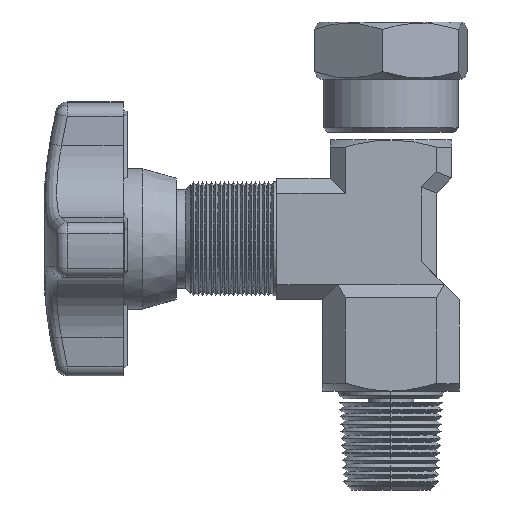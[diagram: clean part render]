
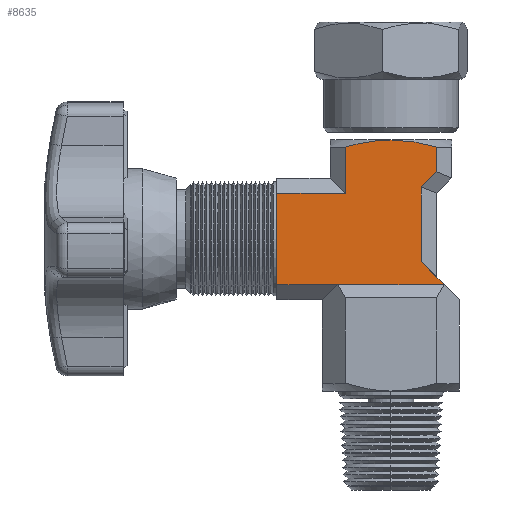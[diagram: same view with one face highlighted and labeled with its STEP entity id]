
A CAD part, left-side view. The second image highlights one B-rep face of the part: STEP entity #8635.
In plain terms, the highlighted planar face has unit normal (-1, 0, 0).
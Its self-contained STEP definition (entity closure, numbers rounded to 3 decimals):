
#53 = CARTESIAN_POINT ( 'NONE',  ( -8., 15., -14. ) ) ;
#365 = CARTESIAN_POINT ( 'NONE',  ( -8., 15., -14. ) ) ;
#383 = ORIENTED_EDGE ( 'NONE', *, *, #2143, .T. ) ;
#442 = VERTEX_POINT ( 'NONE', #7773 ) ;
#447 = VERTEX_POINT ( 'NONE', #9859 ) ;
#674 = CARTESIAN_POINT ( 'NONE',  ( -8., 7., -26. ) ) ;
#988 = CARTESIAN_POINT ( 'NONE',  ( -8., -8., -26. ) ) ;
#1679 = VECTOR ( 'NONE', #9695, 1000. ) ;
#1755 = EDGE_CURVE ( 'NONE', #447, #16697, #5246, .T. ) ;
#1801 = ORIENTED_EDGE ( 'NONE', *, *, #18288, .T. ) ;
#1945 = DIRECTION ( 'NONE',  ( 0., 0., 1. ) ) ;
#2073 = CARTESIAN_POINT ( 'NONE',  ( -8., -5.017, -7.658 ) ) ;
#2143 = EDGE_CURVE ( 'NONE', #4914, #23409, #13853, .T. ) ;
#2487 = VERTEX_POINT ( 'NONE', #4703 ) ;
#3108 = DIRECTION ( 'NONE',  ( 0., -1., 0. ) ) ;
#3661 = LINE ( 'NONE', #21032, #8622 ) ;
#3689 = AXIS2_PLACEMENT_3D ( 'NONE', #22804, #10146, #24923 ) ;
#3921 = DIRECTION ( 'NONE',  ( 0., 0., 1. ) ) ;
#4064 = ORIENTED_EDGE ( 'NONE', *, *, #23447, .T. ) ;
#4127 = DIRECTION ( 'NONE',  ( 0., 0., 1. ) ) ;
#4257 = CARTESIAN_POINT ( 'NONE',  ( -8., -6., -7.933 ) ) ;
#4605 = VECTOR ( 'NONE', #21419, 1000. ) ;
#4703 = CARTESIAN_POINT ( 'NONE',  ( -8., -3.995, -23. ) ) ;
#4771 = EDGE_CURVE ( 'NONE', #15291, #19495, #3661, .T. ) ;
#4914 = VERTEX_POINT ( 'NONE', #21672 ) ;
#5246 = LINE ( 'NONE', #365, #4605 ) ;
#5795 = ORIENTED_EDGE ( 'NONE', *, *, #24785, .F. ) ;
#6476 = CARTESIAN_POINT ( 'NONE',  ( -8., 15., -26. ) ) ;
#7258 = CARTESIAN_POINT ( 'NONE',  ( -8., 0.506, -7. ) ) ;
#7733 = LINE ( 'NONE', #24621, #18957 ) ;
#7773 = CARTESIAN_POINT ( 'NONE',  ( -8., 0., -7. ) ) ;
#7970 = PLANE ( 'NONE',  #3689 ) ;
#7983 = CARTESIAN_POINT ( 'NONE',  ( -8., 6., -7.933 ) ) ;
#8234 = VECTOR ( 'NONE', #4127, 1000. ) ;
#8280 = B_SPLINE_CURVE_WITH_KNOTS ( 'NONE', 3,
 ( #4257, #2073, #23240, #10602, #25342, #12768 ),
 .UNSPECIFIED., .F., .F.,
 ( 4, 2, 4 ),
 ( 0.009, 0.012, 0.015 ),
 .UNSPECIFIED. ) ;
#8622 = VECTOR ( 'NONE', #10517, 1000. ) ;
#8635 = ADVANCED_FACE ( 'NONE', ( #22999 ), #7970, .T. ) ;
#9208 = CARTESIAN_POINT ( 'NONE',  ( -8., -7.498, -26.502 ) ) ;
#9376 = CARTESIAN_POINT ( 'NONE',  ( -8., 2.031, -7.111 ) ) ;
#9695 = DIRECTION ( 'NONE',  ( 0., -0.707, 0.707 ) ) ;
#9859 = CARTESIAN_POINT ( 'NONE',  ( -8., 6., -14. ) ) ;
#10146 = DIRECTION ( 'NONE',  ( -1., 0., 0. ) ) ;
#10517 = DIRECTION ( 'NONE',  ( 0., -1., 0. ) ) ;
#10553 = EDGE_CURVE ( 'NONE', #2487, #21877, #26139, .T. ) ;
#10602 = CARTESIAN_POINT ( 'NONE',  ( -8., -2.018, -7.092 ) ) ;
#11506 = CARTESIAN_POINT ( 'NONE',  ( -8., 4.049, -7.428 ) ) ;
#12016 = DIRECTION ( 'NONE',  ( 0., 0., -1. ) ) ;
#12211 = ORIENTED_EDGE ( 'NONE', *, *, #1755, .T. ) ;
#12474 = VECTOR ( 'NONE', #1945, 1000. ) ;
#12768 = CARTESIAN_POINT ( 'NONE',  ( -8., 0., -7. ) ) ;
#13006 = ORIENTED_EDGE ( 'NONE', *, *, #25221, .T. ) ;
#13576 = VERTEX_POINT ( 'NONE', #6476 ) ;
#13643 = CARTESIAN_POINT ( 'NONE',  ( -8., 6., -7.933 ) ) ;
#13710 = CARTESIAN_POINT ( 'NONE',  ( -8., -6.586, -10.581 ) ) ;
#13853 = LINE ( 'NONE', #27244, #8234 ) ;
#14433 = CARTESIAN_POINT ( 'NONE',  ( -8., -3.995, -14. ) ) ;
#15291 = VERTEX_POINT ( 'NONE', #674 ) ;
#16697 = VERTEX_POINT ( 'NONE', #53 ) ;
#17796 = VERTEX_POINT ( 'NONE', #7983 ) ;
#18187 = ORIENTED_EDGE ( 'NONE', *, *, #4771, .T. ) ;
#18288 = EDGE_CURVE ( 'NONE', #17796, #447, #7733, .T. ) ;
#18414 = LINE ( 'NONE', #988, #22713 ) ;
#18957 = VECTOR ( 'NONE', #12016, 1000. ) ;
#19495 = VERTEX_POINT ( 'NONE', #23286 ) ;
#19879 = CARTESIAN_POINT ( 'NONE',  ( -8., 0., -7. ) ) ;
#20506 = ORIENTED_EDGE ( 'NONE', *, *, #27154, .T. ) ;
#20524 = VECTOR ( 'NONE', #3921, 1000. ) ;
#21032 = CARTESIAN_POINT ( 'NONE',  ( -8., -8., -26. ) ) ;
#21284 = ORIENTED_EDGE ( 'NONE', *, *, #21822, .F. ) ;
#21376 = LINE ( 'NONE', #9208, #26308 ) ;
#21377 = EDGE_CURVE ( 'NONE', #21877, #4914, #24749, .T. ) ;
#21419 = DIRECTION ( 'NONE',  ( 0., 1., 0. ) ) ;
#21608 = EDGE_LOOP ( 'NONE', ( #383, #4064, #20506, #1801, #12211, #5795, #13006, #18187, #21284, #23717, #25067 ) ) ;
#21672 = CARTESIAN_POINT ( 'NONE',  ( -8., -6., -11.167 ) ) ;
#21822 = EDGE_CURVE ( 'NONE', #2487, #19495, #21376, .T. ) ;
#21877 = VERTEX_POINT ( 'NONE', #26170 ) ;
#21987 = CARTESIAN_POINT ( 'NONE',  ( -8., 1.013, -7.023 ) ) ;
#22713 = VECTOR ( 'NONE', #3108, 1000. ) ;
#22804 = CARTESIAN_POINT ( 'NONE',  ( -8., -8., -26. ) ) ;
#22999 = FACE_OUTER_BOUND ( 'NONE', #21608, .T. ) ;
#23012 = LINE ( 'NONE', #25040, #12474 ) ;
#23056 = CARTESIAN_POINT ( 'NONE',  ( -8., -6., -7.933 ) ) ;
#23240 = CARTESIAN_POINT ( 'NONE',  ( -8., -4.019, -7.421 ) ) ;
#23286 = CARTESIAN_POINT ( 'NONE',  ( -8., -6.995, -26. ) ) ;
#23409 = VERTEX_POINT ( 'NONE', #23056 ) ;
#23447 = EDGE_CURVE ( 'NONE', #23409, #442, #8280, .T. ) ;
#23717 = ORIENTED_EDGE ( 'NONE', *, *, #10553, .T. ) ;
#24127 = CARTESIAN_POINT ( 'NONE',  ( -8., 2.542, -7.178 ) ) ;
#24404 = B_SPLINE_CURVE_WITH_KNOTS ( 'NONE', 3,
 ( #19879, #7258, #21987, #9376, #24127, #11506, #26236, #13643 ),
 .UNSPECIFIED., .F., .F.,
 ( 4, 2, 2, 4 ),
 ( 0.015, 0.016, 0.018, 0.021 ),
 .UNSPECIFIED. ) ;
#24621 = CARTESIAN_POINT ( 'NONE',  ( -8., 6., -26. ) ) ;
#24749 = LINE ( 'NONE', #13710, #1679 ) ;
#24785 = EDGE_CURVE ( 'NONE', #13576, #16697, #23012, .T. ) ;
#24923 = DIRECTION ( 'NONE',  ( 0., 0., 1. ) ) ;
#25040 = CARTESIAN_POINT ( 'NONE',  ( -8., 15., -28. ) ) ;
#25067 = ORIENTED_EDGE ( 'NONE', *, *, #21377, .T. ) ;
#25221 = EDGE_CURVE ( 'NONE', #13576, #15291, #18414, .T. ) ;
#25342 = CARTESIAN_POINT ( 'NONE',  ( -8., -1.012, -7. ) ) ;
#26074 = DIRECTION ( 'NONE',  ( 0., -0.707, -0.707 ) ) ;
#26139 = LINE ( 'NONE', #14433, #20524 ) ;
#26170 = CARTESIAN_POINT ( 'NONE',  ( -8., -3.995, -13.172 ) ) ;
#26236 = CARTESIAN_POINT ( 'NONE',  ( -8., 5.031, -7.661 ) ) ;
#26308 = VECTOR ( 'NONE', #26074, 1000. ) ;
#27154 = EDGE_CURVE ( 'NONE', #442, #17796, #24404, .T. ) ;
#27244 = CARTESIAN_POINT ( 'NONE',  ( -8., -6., -26. ) ) ;
